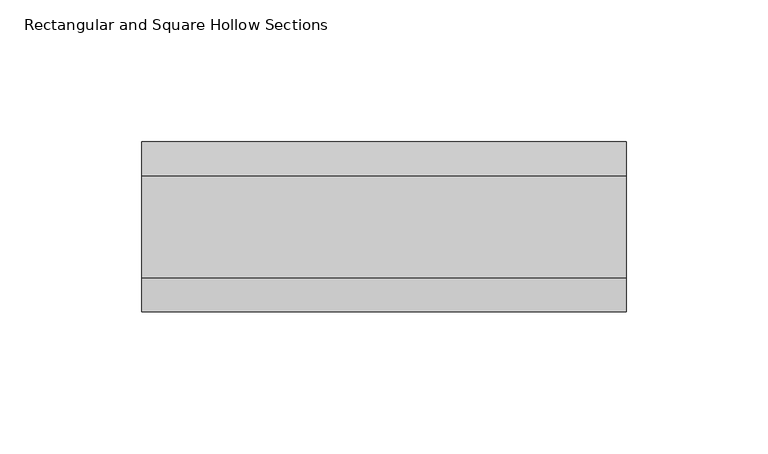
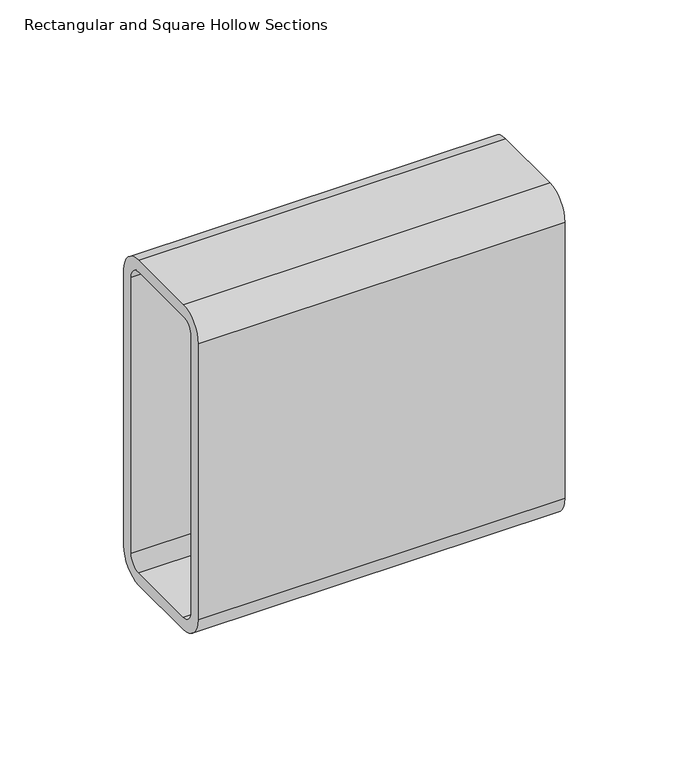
"""IFC4 building model written with IfcOpenShell, lengths in millimetres: beam geometry, Rectangular and Square Hollow Sections : TREC160x60x6."""

from ifc_helpers import new_model, si_unit, point, frame, frame_2d, origin, place, context, project, spatial, polyline, circle_curve, trimmed, segment, composite_curve, outline, extrude, source, transform, mapped, element, save


def rectangular_and_square_hollow_sections_a68c0d95(model_context):
    return source(origin(), model_context, "Body", "SweptSolid", [
        extrude(outline(composite_curve([segment(polyline([(30.0, 68.0), (30.0, -68.0)]), True, "CONTINUOUS"), segment(trimmed(circle_curve(frame_2d((18.0, -68.0)), 12.0), [point((30.0, -68.0))], [point((18.0, -80.0))], False, "CARTESIAN"), True, "CONTINUOUS"), segment(polyline([(18.0, -80.0), (-18.0, -80.0)]), True, "CONTINUOUS"), segment(trimmed(circle_curve(frame_2d((-18.0, -68.0)), 12.0), [point((-18.0, -80.0))], [point((-30.0, -68.0))], False, "CARTESIAN"), True, "CONTINUOUS"), segment(polyline([(-30.0, -68.0), (-30.0, 68.0)]), True, "CONTINUOUS"), segment(trimmed(circle_curve(frame_2d((-18.0, 68.0)), 12.0), [point((-30.0, 68.0))], [point((-18.0, 80.0))], False, "CARTESIAN"), True, "CONTINUOUS"), segment(polyline([(-18.0, 80.0), (18.0, 80.0)]), True, "CONTINUOUS"), segment(trimmed(circle_curve(frame_2d((18.0, 68.0)), 12.0), [point((18.0, 80.0))], [point((30.0, 68.0))], False, "CARTESIAN"), True, "CONTINUOUS")], self_intersect=False), holes=[composite_curve([segment(trimmed(circle_curve(frame_2d((-18.0, 68.0)), 6.0), [point((-18.0, 74.0))], [point((-24.0, 68.0))], True, "CARTESIAN"), True, "CONTINUOUS"), segment(polyline([(-24.0, 68.0), (-24.0, -68.0)]), True, "CONTINUOUS"), segment(trimmed(circle_curve(frame_2d((-18.0, -68.0)), 6.0), [point((-24.0, -68.0))], [point((-18.0, -74.0))], True, "CARTESIAN"), True, "CONTINUOUS"), segment(polyline([(-18.0, -74.0), (18.0, -74.0)]), True, "CONTINUOUS"), segment(trimmed(circle_curve(frame_2d((18.0, -68.0)), 6.0), [point((18.0, -74.0))], [point((24.0, -68.0))], True, "CARTESIAN"), True, "CONTINUOUS"), segment(polyline([(24.0, -68.0), (24.0, 68.0)]), True, "CONTINUOUS"), segment(trimmed(circle_curve(frame_2d((18.0, 68.0)), 6.0), [point((24.0, 68.0))], [point((18.0, 74.0))], True, "CARTESIAN"), True, "CONTINUOUS"), segment(polyline([(18.0, 74.0), (-18.0, 74.0)]), True, "CONTINUOUS")], self_intersect=False)]), frame((-85.5, 0.0, 0.0), z_axis=(1.0, 0.0, 0.0), x_axis=(0.0, 1.0, 0.0)), (0.0, 0.0, 1.0), 171.0),
    ])


if __name__ == "__main__":
    model = new_model("IFC4")
    model_context = context("Model", 3, world=origin())
    ifc_project = project(units=[si_unit("LENGTHUNIT", "METRE", prefix="MILLI")], contexts=[model_context])
    site = spatial("IfcSite", under=ifc_project)
    building = spatial("IfcBuilding", under=site)
    placement = place(None, origin())
    rectangular_and_square_hollow_sections_shape = rectangular_and_square_hollow_sections_a68c0d95(model_context)
    element("IfcBeam", 1, ObjectType="Rectangular and Square Hollow Sections : TREC160x60x6", at=placement, inside=building, context=model_context, shape_type="MappedRepresentation", body=[
        mapped(rectangular_and_square_hollow_sections_shape, transform((0.0, 0.0, 0.0), x_axis=(1.0, 0.0, 0.0), y_axis=(0.0, 1.0, 0.0), z_axis=(0.0, 0.0, 1.0))),
    ])
    save(model, "model.ifc")
